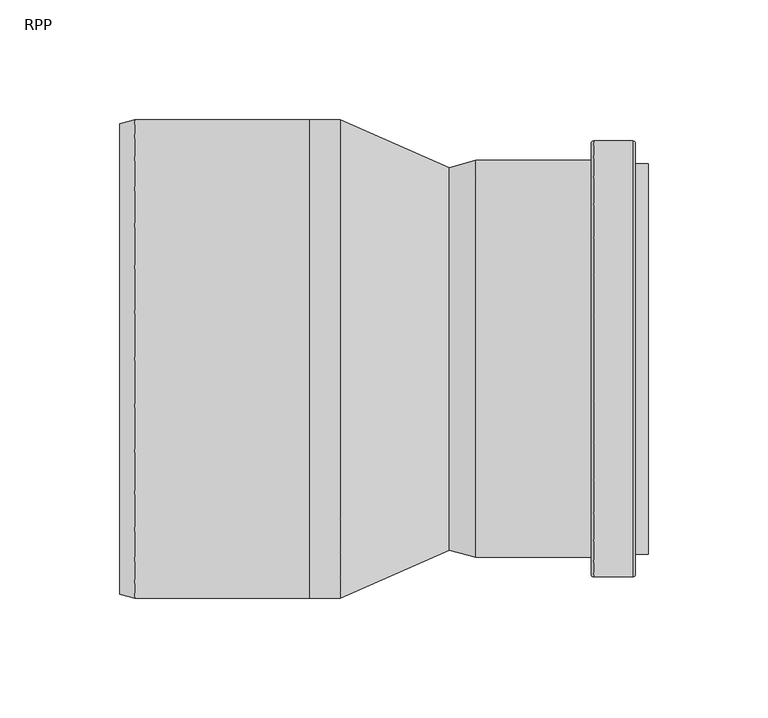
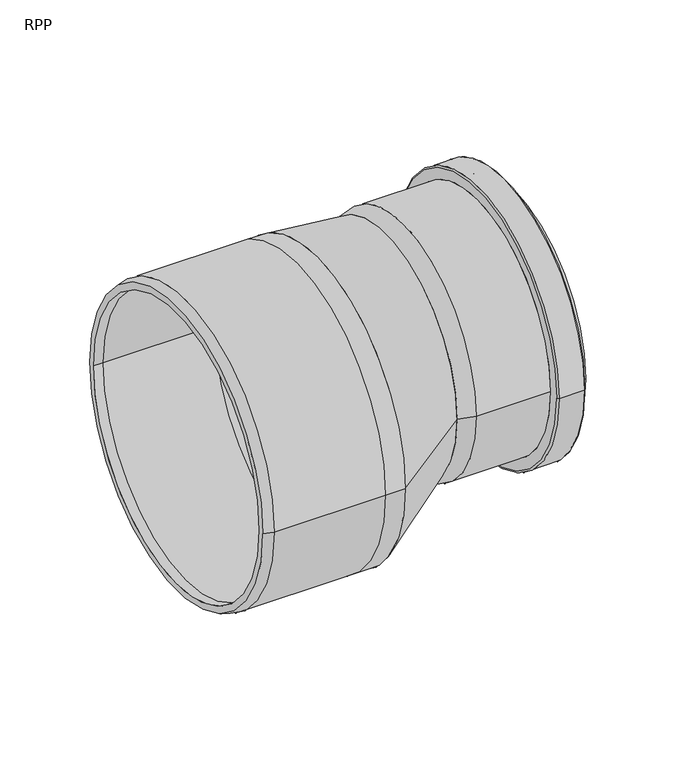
"""IFC4 building model written with IfcOpenShell, lengths in millimetres: pipe fitting geometry, RAUPIANO PLUS Reducer : RPP."""

from ifc_helpers import new_model, si_unit, point, frame, origin, place, context, project, spatial, polyline, circle_curve, ellipse_curve, trimmed, source, transform, mapped, element, save
from ifc_brep_helpers import plane_surface, cylinder_surface, revolved_surface, spline_surface, advanced_brep


def rpp_85ccc1c2(model_context):
    return source(origin(), model_context, "Body", "AdvancedBrep", [
        advanced_brep(
        [(82.1, 82.9474411, 20.0), (82.1, -82.9474411, 20.0), (33.75, -82.9474411, 20.0), (33.75, 82.9474411, 20.0), (106.0, 81.6076952, 20.0), (106.0, -81.6076952, 20.0), (100.5, -81.6076952, 20.0), (100.5, 81.6076952, 20.0), (100.5, 79.0474411, 20.0), (100.5, -79.0474411, 20.0), (106.0, -79.0474411, 20.0), (106.0, 79.0474411, 20.0), (33.75, 79.0474411, 20.0), (33.75, -79.0474411, 20.0), (22.75, 76.1, 20.0), (22.75, -76.1, 20.0), (22.75, -80.0, 20.0), (22.75, 80.0, 20.0), (83.1, 91.0974411, 20.0), (83.1, -91.0974411, 20.0), (82.1, -90.0974411, 20.0), (82.1, 90.0974411, 20.0), (99.5, 91.0974411, 20.0), (99.5, -91.0974411, 20.0), (100.5, 90.0974411, 20.0), (100.5, -90.0974411, 20.0)],
        [
            (0, 1, circle_curve(frame((82.1, 0.0, 20.0), z_axis=(-1.0, 0.0, 0.0), x_axis=(0.0, -1.0, 0.0)), 82.9474411)),
            (1, 2),
            (2, 3, circle_curve(frame((33.75, 0.0, 20.0), z_axis=(1.0, 0.0, 0.0), x_axis=(0.0, -1.0, 0.0)), 82.9474411)),
            (3, 0),
            (4, 5, circle_curve(frame((106.0, 0.0, 20.0), z_axis=(-1.0, 0.0, 0.0), x_axis=(0.0, -1.0, 0.0)), 81.6076952)),
            (5, 6),
            (6, 7, circle_curve(frame((100.5, 0.0, 20.0), z_axis=(1.0, 0.0, 0.0), x_axis=(0.0, -1.0, 0.0)), 81.6076952)),
            (7, 4),
            (8, 9, circle_curve(frame((100.5, 0.0, 20.0), z_axis=(-1.0, 0.0, 0.0), x_axis=(0.0, -1.0, 0.0)), 79.0474411)),
            (9, 10),
            (10, 11, circle_curve(frame((106.0, 0.0, 20.0), z_axis=(1.0, 0.0, 0.0), x_axis=(0.0, -1.0, 0.0)), 79.0474411)),
            (11, 8),
            (12, 13, circle_curve(frame((33.75, 0.0, 20.0), z_axis=(-1.0, 0.0, 0.0), x_axis=(0.0, -1.0, 0.0)), 79.0474411)),
            (13, 9),
            (8, 12),
            (14, 15, circle_curve(frame((22.75, 0.0, 20.0), z_axis=(-1.0, 0.0, 0.0), x_axis=(0.0, -1.0, 0.0)), 76.1)),
            (15, 13),
            (12, 14),
            (2, 16),
            (16, 17, circle_curve(frame((22.75, 0.0, 20.0), z_axis=(1.0, 0.0, 0.0), x_axis=(0.0, -1.0, 0.0)), 80.0)),
            (17, 3),
            (1, 0, circle_curve(frame((82.1, 0.0, 20.0), z_axis=(-1.0, 0.0, 0.0), x_axis=(0.0, 1.0, 0.0)), 82.9474411)),
            (3, 2, circle_curve(frame((33.75, 0.0, 20.0), z_axis=(1.0, 0.0, 0.0), x_axis=(0.0, 1.0, 0.0)), 82.9474411)),
            (5, 4, circle_curve(frame((106.0, 0.0, 20.0), z_axis=(-1.0, 0.0, 0.0), x_axis=(0.0, 1.0, 0.0)), 81.6076952)),
            (7, 6, circle_curve(frame((100.5, 0.0, 20.0), z_axis=(1.0, 0.0, 0.0), x_axis=(0.0, 1.0, 0.0)), 81.6076952)),
            (10, 11, circle_curve(frame((106.0, 0.0, 20.0), z_axis=(-1.0, 0.0, 0.0), x_axis=(0.0, 1.0, 0.0)), 79.0474411)),
            (9, 8, circle_curve(frame((100.5, 0.0, 20.0), z_axis=(-1.0, 0.0, 0.0), x_axis=(0.0, 1.0, 0.0)), 79.0474411)),
            (13, 12, circle_curve(frame((33.75, 0.0, 20.0), z_axis=(-1.0, 0.0, 0.0), x_axis=(0.0, 1.0, 0.0)), 79.0474411)),
            (15, 14, circle_curve(frame((22.75, 0.0, 20.0), z_axis=(-1.0, 0.0, 0.0), x_axis=(0.0, 1.0, 0.0)), 76.1)),
            (17, 16, circle_curve(frame((22.75, 0.0, 20.0), z_axis=(1.0, 0.0, 0.0), x_axis=(0.0, 1.0, 0.0)), 80.0)),
            (18, 19, circle_curve(frame((83.1, 0.0, 20.0), z_axis=(-1.0, 0.0, 0.0), x_axis=(0.0, -1.0, 0.0)), 91.0974411)),
            (19, 20, circle_curve(frame((83.1, -90.0974411, 20.0), z_axis=(0.0, 0.0, -1.0), x_axis=(1.0, 0.0, 0.0)), 1.0)),
            (20, 21, circle_curve(frame((82.1, 0.0, 20.0), z_axis=(1.0, 0.0, 0.0), x_axis=(0.0, -1.0, 0.0)), 90.0974411)),
            (21, 18, circle_curve(frame((83.1, 90.0974411, 20.0), z_axis=(0.0, 0.0, -1.0), x_axis=(1.0, 0.0, 0.0)), 1.0)),
            (22, 23, circle_curve(frame((99.5, 0.0, 20.0), z_axis=(-1.0, 0.0, 0.0), x_axis=(0.0, -1.0, 0.0)), 91.0974411)),
            (23, 19),
            (18, 22),
            (24, 25, circle_curve(frame((100.5, 0.0, 20.0), z_axis=(-1.0, 0.0, 0.0), x_axis=(0.0, -1.0, 0.0)), 90.0974411)),
            (25, 23, circle_curve(frame((99.5, -90.0974411, 20.0), z_axis=(0.0, 0.0, -1.0), x_axis=(1.0, 0.0, 0.0)), 1.0)),
            (22, 24, circle_curve(frame((99.5, 90.0974411, 20.0), z_axis=(0.0, 0.0, -1.0), x_axis=(1.0, 0.0, 0.0)), 1.0)),
            (20, 21, circle_curve(frame((82.1, 0.0, 20.0), z_axis=(-1.0, 0.0, 0.0), x_axis=(0.0, 1.0, 0.0)), 90.0974411)),
            (19, 18, circle_curve(frame((83.1, 0.0, 20.0), z_axis=(-1.0, 0.0, 0.0), x_axis=(0.0, 1.0, 0.0)), 91.0974411)),
            (23, 22, circle_curve(frame((99.5, 0.0, 20.0), z_axis=(-1.0, 0.0, 0.0), x_axis=(0.0, 1.0, 0.0)), 91.0974411)),
            (25, 24, circle_curve(frame((100.5, 0.0, 20.0), z_axis=(-1.0, 0.0, 0.0), x_axis=(0.0, 1.0, 0.0)), 90.0974411)),
        ],
        [
            cylinder_surface(frame((0.0, 0.0, 20.0), z_axis=(1.0, 0.0, 0.0), x_axis=(0.0, -1.0, 0.0)), 82.9474411),
            cylinder_surface(frame((0.0, 0.0, 20.0), z_axis=(1.0, 0.0, 0.0), x_axis=(0.0, -1.0, 0.0)), 81.6076952),
            revolved_surface(polyline([(106.0, -79.0474411, 20.0), (100.5, -79.0474411, 20.0)]), (0.0, 0.0, 20.0), (1.0, 0.0, 0.0)),
            revolved_surface(polyline([(100.5, -79.0474411, 20.0), (33.75, -79.0474411, 20.0)]), (0.0, 0.0, 20.0), (1.0, 0.0, 0.0)),
            revolved_surface(polyline([(33.75, -79.0474411, 20.0), (22.75, -76.1, 20.0)]), (0.0, 0.0, 20.0), (1.0, 0.0, 0.0)),
            revolved_surface(polyline([(22.75, -80.0, 20.0), (33.75, -82.9474411, 20.0)]), (0.0, 0.0, 20.0), (1.0, 0.0, 0.0)),
            cylinder_surface(frame((0.0, 0.0, 20.0), z_axis=(1.0, 0.0, 0.0), x_axis=(0.0, 1.0, 0.0)), 82.9474411),
            cylinder_surface(frame((0.0, 0.0, 20.0), z_axis=(1.0, 0.0, 0.0), x_axis=(0.0, 1.0, 0.0)), 81.6076952),
            plane_surface(frame((106.0, 0.0, 20.0), z_axis=(1.0, 0.0, 0.0), x_axis=(0.0, 1.0, 0.0))),
            revolved_surface(polyline([(106.0, 79.0474411, 20.0), (100.5, 79.0474411, 20.0)]), (0.0, 0.0, 20.0), (1.0, 0.0, 0.0)),
            revolved_surface(polyline([(100.5, 79.0474411, 20.0), (33.75, 79.0474411, 20.0)]), (0.0, 0.0, 20.0), (1.0, 0.0, 0.0)),
            revolved_surface(polyline([(33.75, 79.0474411, 20.0), (22.75, 76.1, 20.0)]), (0.0, 0.0, 20.0), (1.0, 0.0, 0.0)),
            revolved_surface(polyline([(22.75, 80.0, 20.0), (33.75, 82.9474411, 20.0)]), (0.0, 0.0, 20.0), (1.0, 0.0, 0.0)),
            revolved_surface(trimmed(ellipse_curve(frame((83.1, -90.0974411, 20.0), z_axis=(0.0, 0.0, 1.0), x_axis=(1.0, 0.0, 0.0)), 1.0, 1.0), [point((82.1, -90.0974411, 20.0))], [point((83.1, -91.0974411, 20.0))], True, "CARTESIAN"), (0.0, 0.0, 20.0), (1.0, 0.0, 0.0)),
            cylinder_surface(frame((0.0, 0.0, 20.0), z_axis=(1.0, 0.0, 0.0), x_axis=(0.0, -1.0, 0.0)), 91.0974411),
            revolved_surface(trimmed(ellipse_curve(frame((99.5, -90.0974411, 20.0), z_axis=(0.0, 0.0, 1.0), x_axis=(1.0, 0.0, 0.0)), 1.0, 1.0), [point((99.5, -91.0974411, 20.0))], [point((100.5, -90.0974411, 20.0))], True, "CARTESIAN"), (0.0, 0.0, 20.0), (1.0, 0.0, 0.0)),
            plane_surface(frame((82.1, 0.0, 20.0), z_axis=(-1.0, 0.0, 0.0), x_axis=(0.0, 1.0, 0.0))),
            revolved_surface(trimmed(ellipse_curve(frame((83.1, 90.0974411, 20.0), z_axis=(0.0, 0.0, -1.0), x_axis=(1.0, 0.0, 0.0)), 1.0, 1.0), [point((82.1, 90.0974411, 20.0))], [point((83.1, 91.0974411, 20.0))], True, "CARTESIAN"), (0.0, 0.0, 20.0), (1.0, 0.0, 0.0)),
            cylinder_surface(frame((0.0, 0.0, 20.0), z_axis=(1.0, 0.0, 0.0), x_axis=(0.0, 1.0, 0.0)), 91.0974411),
            revolved_surface(trimmed(ellipse_curve(frame((99.5, 90.0974411, 20.0), z_axis=(0.0, 0.0, -1.0), x_axis=(1.0, 0.0, 0.0)), 1.0, 1.0), [point((99.5, 91.0974411, 20.0))], [point((100.5, 90.0974411, 20.0))], True, "CARTESIAN"), (0.0, 0.0, 20.0), (1.0, 0.0, 0.0)),
            plane_surface(frame((100.5, 0.0, 20.0), z_axis=(1.0, 0.0, 0.0), x_axis=(0.0, 1.0, 0.0))),
            plane_surface(frame((22.75, 0.0, 20.0), z_axis=(-1.0, 0.0, 0.0), x_axis=(0.0, 1.0, 0.0))),
        ],
        [
            (0, [[1, 2, 3, 4]]),
            (1, [[5, 6, 7, 8]]),
            (2, [[9, 10, 11, 12]]),
            (3, [[13, 14, -9, 15]]),
            (4, [[16, 17, -13, 18]]),
            (5, [[-3, 19, 20, 21]]),
            (6, [[22, -4, 23, -2]]),
            (7, [[24, -8, 25, -6]]),
            (8, [[-24, -5], [26, -11]]),
            (9, [[27, -12, -26, -10]]),
            (10, [[28, -15, -27, -14]]),
            (11, [[29, -18, -28, -17]]),
            (12, [[-23, -21, 30, -19]]),
            (13, [[31, 32, 33, 34]]),
            (14, [[35, 36, -31, 37]]),
            (15, [[38, 39, -35, 40]]),
            (16, [[41, -33], [-22, -1]]),
            (17, [[42, -34, -41, -32]]),
            (18, [[43, -37, -42, -36]]),
            (19, [[44, -40, -43, -39]]),
            (20, [[-44, -38], [-25, -7]]),
            (21, [[-30, -20], [-29, -16]]),
        ],
    ),
        advanced_brep(
        [(-22.75, 100.0, 0.0), (-22.75, -100.0, 0.0), (-35.55, -100.0, 0.0), (-35.55, 100.0, 0.0), (-35.55, 93.8, 0.0), (-35.55, -93.8, 0.0), (-22.75, -93.8, 0.0), (-22.75, 93.8, 0.0), (-108.6, 93.8, 0.0), (-108.6, -93.8, 0.0), (-115.0, 93.8, 0.0), (-115.0, -93.8, 0.0), (-108.6, 100.0, 0.0), (-108.6, -100.0, 0.0), (-115.0, -98.2851252, 0.0), (-115.0, 98.2851252, 0.0)],
        [
            (0, 1, circle_curve(frame((-22.75, 0.0, 0.0), z_axis=(-1.0, 0.0, 0.0), x_axis=(0.0, -1.0, 0.0)), 100.0)),
            (1, 2),
            (2, 3, circle_curve(frame((-35.55, 0.0, 0.0), z_axis=(1.0, 0.0, 0.0), x_axis=(0.0, -1.0, 0.0)), 100.0)),
            (3, 0),
            (4, 5, circle_curve(frame((-35.55, 0.0, 0.0), z_axis=(-1.0, 0.0, 0.0), x_axis=(0.0, -1.0, 0.0)), 93.8)),
            (5, 6),
            (6, 7, circle_curve(frame((-22.75, 0.0, 0.0), z_axis=(1.0, 0.0, 0.0), x_axis=(0.0, -1.0, 0.0)), 93.8)),
            (7, 4),
            (8, 9, circle_curve(frame((-108.6, 0.0, 0.0), z_axis=(-1.0, 0.0, 0.0), x_axis=(0.0, -1.0, 0.0)), 93.8)),
            (9, 5),
            (4, 8),
            (10, 11, circle_curve(frame((-115.0, 0.0, 0.0), z_axis=(-1.0, 0.0, 0.0), x_axis=(0.0, -1.0, 0.0)), 93.8)),
            (11, 9),
            (8, 10),
            (12, 13, circle_curve(frame((-108.6, 0.0, 0.0), z_axis=(-1.0, 0.0, 0.0), x_axis=(0.0, -1.0, 0.0)), 100.0)),
            (13, 14),
            (14, 15, circle_curve(frame((-115.0, 0.0, 0.0), z_axis=(1.0, 0.0, 0.0), x_axis=(0.0, -1.0, 0.0)), 98.2851252)),
            (15, 12),
            (2, 13),
            (12, 3),
            (1, 0, circle_curve(frame((-22.75, 0.0, 0.0), z_axis=(-1.0, 0.0, 0.0), x_axis=(0.0, 1.0, 0.0)), 100.0)),
            (3, 2, circle_curve(frame((-35.55, 0.0, 0.0), z_axis=(1.0, 0.0, 0.0), x_axis=(0.0, 1.0, 0.0)), 100.0)),
            (6, 7, circle_curve(frame((-22.75, 0.0, 0.0), z_axis=(-1.0, 0.0, 0.0), x_axis=(0.0, 1.0, 0.0)), 93.8)),
            (5, 4, circle_curve(frame((-35.55, 0.0, 0.0), z_axis=(-1.0, 0.0, 0.0), x_axis=(0.0, 1.0, 0.0)), 93.8)),
            (9, 8, circle_curve(frame((-108.6, 0.0, 0.0), z_axis=(-1.0, 0.0, 0.0), x_axis=(0.0, 1.0, 0.0)), 93.8)),
            (11, 10, circle_curve(frame((-115.0, 0.0, 0.0), z_axis=(-1.0, 0.0, 0.0), x_axis=(0.0, 1.0, 0.0)), 93.8)),
            (14, 15, circle_curve(frame((-115.0, 0.0, 0.0), z_axis=(-1.0, 0.0, 0.0), x_axis=(0.0, 1.0, 0.0)), 98.2851252)),
            (13, 12, circle_curve(frame((-108.6, 0.0, 0.0), z_axis=(-1.0, 0.0, 0.0), x_axis=(0.0, 1.0, 0.0)), 100.0)),
        ],
        [
            cylinder_surface(frame((0.0, 0.0, 0.0), z_axis=(1.0, 0.0, 0.0), x_axis=(0.0, -1.0, 0.0)), 100.0),
            revolved_surface(polyline([(-22.75, -93.8, 0.0), (-35.55, -93.8, 0.0)]), (0.0, 0.0, 0.0), (1.0, 0.0, 0.0)),
            revolved_surface(polyline([(-35.55, -93.8, 0.0), (-108.6, -93.8, 0.0)]), (0.0, 0.0, 0.0), (1.0, 0.0, 0.0)),
            revolved_surface(polyline([(-108.6, -93.8, 0.0), (-115.0, -93.8, 0.0)]), (0.0, 0.0, 0.0), (1.0, 0.0, 0.0)),
            revolved_surface(polyline([(-115.0, -98.2851252, 0.0), (-108.6, -100.0, 0.0)]), (0.0, 0.0, 0.0), (1.0, 0.0, 0.0)),
            cylinder_surface(frame((0.0, 0.0, 0.0), z_axis=(1.0, 0.0, 0.0), x_axis=(0.0, 1.0, 0.0)), 100.0),
            plane_surface(frame((-22.75, 0.0, 0.0), z_axis=(1.0, 0.0, 0.0), x_axis=(0.0, 1.0, 0.0))),
            revolved_surface(polyline([(-22.75, 93.8, 0.0), (-35.55, 93.8, 0.0)]), (0.0, 0.0, 0.0), (1.0, 0.0, 0.0)),
            revolved_surface(polyline([(-35.55, 93.8, 0.0), (-108.6, 93.8, 0.0)]), (0.0, 0.0, 0.0), (1.0, 0.0, 0.0)),
            revolved_surface(polyline([(-108.6, 93.8, 0.0), (-115.0, 93.8, 0.0)]), (0.0, 0.0, 0.0), (1.0, 0.0, 0.0)),
            plane_surface(frame((-115.0, 0.0, 0.0), z_axis=(-1.0, 0.0, 0.0), x_axis=(0.0, 1.0, 0.0))),
            revolved_surface(polyline([(-115.0, 98.2851252, 0.0), (-108.6, 100.0, 0.0)]), (0.0, 0.0, 0.0), (1.0, 0.0, 0.0)),
        ],
        [
            (0, [[1, 2, 3, 4]]),
            (1, [[5, 6, 7, 8]]),
            (2, [[9, 10, -5, 11]]),
            (3, [[12, 13, -9, 14]]),
            (4, [[15, 16, 17, 18]]),
            (0, [[-3, 19, -15, 20]]),
            (5, [[21, -4, 22, -2]]),
            (6, [[-21, -1], [23, -7]]),
            (7, [[24, -8, -23, -6]]),
            (8, [[25, -11, -24, -10]]),
            (9, [[26, -14, -25, -13]]),
            (10, [[27, -17], [-26, -12]]),
            (11, [[28, -18, -27, -16]]),
            (5, [[-22, -20, -28, -19]]),
        ],
    ),
        advanced_brep(
        [(22.75, -80.0, 20.0), (22.75, 80.0, 20.0), (-22.75, -100.0, 0.0), (-22.75, 100.0, 0.0)],
        [
            (0, 1, circle_curve(frame((22.75, 0.0, 20.0), z_axis=(1.0, 0.0, 0.0), x_axis=(0.0, 1.0, 0.0)), 80.0)),
            (1, 0, circle_curve(frame((22.75, 0.0, 20.0), z_axis=(1.0, 0.0, 0.0), x_axis=(0.0, 1.0, 0.0)), 80.0)),
            (2, 3, circle_curve(frame((-22.75, 0.0, 0.0), z_axis=(-1.0, 0.0, 0.0), x_axis=(0.0, 1.0, 0.0)), 100.0)),
            (3, 2, circle_curve(frame((-22.75, 0.0, 0.0), z_axis=(-1.0, 0.0, 0.0), x_axis=(0.0, 1.0, 0.0)), 100.0)),
            (3, 1),
            (0, 2),
        ],
        [
            plane_surface(frame((22.75, 0.0, 20.0), z_axis=(1.0, 0.0, 0.0), x_axis=(0.0, 0.0, -1.0))),
            plane_surface(frame((-22.75, 0.0, 0.0), z_axis=(-1.0, 0.0, 0.0), x_axis=(0.0, 0.0, -1.0))),
            spline_surface(2, 1, [[(-22.75, -100.0, 0.0), (22.75, -80.0, 20.0)], [(-22.75, -100.0, -100.0), (22.75, -80.0, -60.0)], [(-22.75, 0.0, -100.0), (22.75, 0.0, -60.0)], [(-22.75, 100.0, -100.0), (22.75, 80.0, -60.0)], [(-22.75, 100.0, 0.0), (22.75, 80.0, 20.0)]], [3, 2, 3], [2, 2], [0.0, 1.0, 2.0], [0.0, 1.0], weights=[[1.0, 1.0], [0.7071067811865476, 0.7071067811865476], [1.0, 1.0], [0.7071067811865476, 0.7071067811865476], [1.0, 1.0]]),
            spline_surface(2, 1, [[(-22.75, 100.0, 0.0), (22.75, 80.0, 20.0)], [(-22.75, 100.0, 100.0), (22.75, 80.0, 100.0)], [(-22.75, 0.0, 100.0), (22.75, 0.0, 100.0)], [(-22.75, -100.0, 100.0), (22.75, -80.0, 100.0)], [(-22.75, -100.0, 0.0), (22.75, -80.0, 20.0)]], [3, 2, 3], [2, 2], [0.0, 1.0, 2.0], [0.0, 1.0], weights=[[1.0, 1.0], [0.7071067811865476, 0.7071067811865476], [1.0, 1.0], [0.7071067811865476, 0.7071067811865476], [1.0, 1.0]]),
        ],
        [
            (0, [[1, 2]]),
            (1, [[3, 4]]),
            (2, [[-4, 5, -1, 6]]),
            (3, [[-3, -6, -2, -5]]),
        ],
    ),
    ])


if __name__ == "__main__":
    model = new_model("IFC4")
    model_context = context("Model", 3, world=origin())
    ifc_project = project(units=[si_unit("LENGTHUNIT", "METRE", prefix="MILLI")], contexts=[model_context])
    site = spatial("IfcSite", under=ifc_project)
    building = spatial("IfcBuilding", under=site)
    placement = place(None, origin())
    rpp_shape = rpp_85ccc1c2(model_context)
    element("IfcPipeFitting", 1, ObjectType="RAUPIANO PLUS Reducer : RPP", at=placement, inside=building, context=model_context, shape_type="MappedRepresentation", body=[
        mapped(rpp_shape, transform((0.0, 0.0, 0.0), x_axis=(1.0, 0.0, 0.0), y_axis=(0.0, 1.0, 0.0), z_axis=(0.0, 0.0, 1.0))),
    ])
    save(model, "model.ifc")
